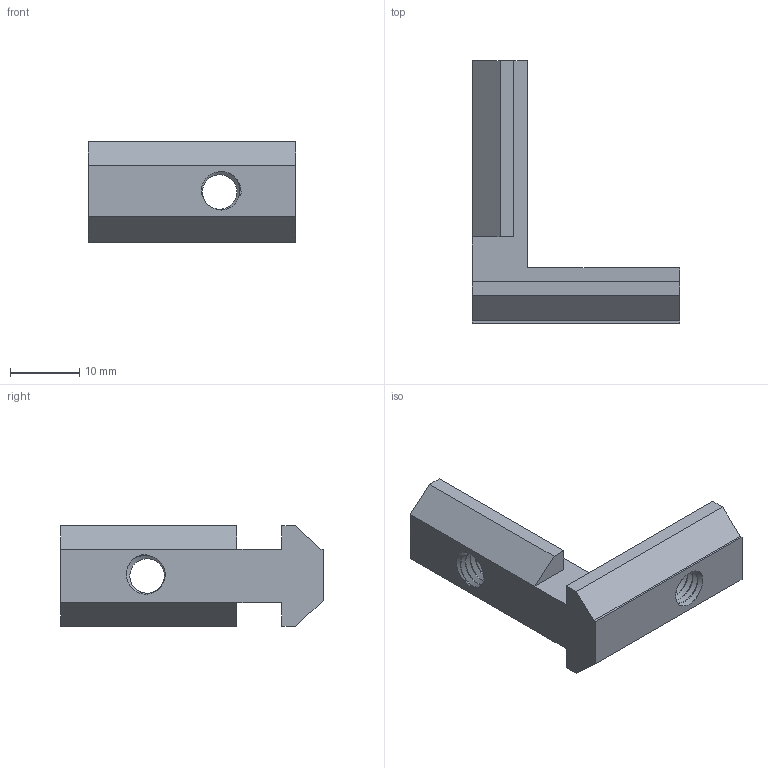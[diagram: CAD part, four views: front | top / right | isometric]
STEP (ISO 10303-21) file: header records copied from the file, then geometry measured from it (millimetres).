
FILE_DESCRIPTION (( 'STEP AP203' ), '1' );
FILE_NAME ('75-CE-IE3030-8.STEP', '2015-07-09T08:25:58', ( '' ), ( '' ), 'SwSTEP 2.0', 'SolidWorks 2013', '' );
FILE_SCHEMA (( 'CONFIG_CONTROL_DESIGN' ));
Length unit declared in the file: millimetre
Products named in the file (1): 75-CE-IE3030-8
Bounding box: 30 x 38 x 14.5 mm (x, y, z)
Volume: 4804.9 mm3; surface area: 3001.2 mm2
Topology: 1 solids, 1 shells, 61 faces, 175 edges, 116 vertices
Faces by surface type: cylinder 34, plane 23, bspline 4
Entity records: 4220 total; most frequent: CARTESIAN_POINT 2773, ORIENTED_EDGE 350, DIRECTION 217, EDGE_CURVE 175, VERTEX_POINT 116, LINE 93, VECTOR 93, EDGE_LOOP 65
